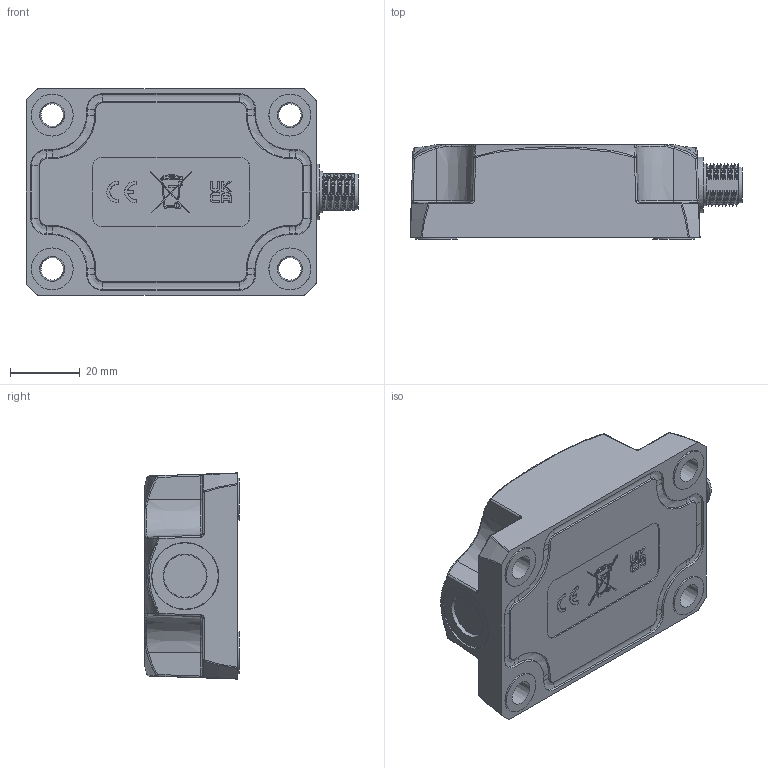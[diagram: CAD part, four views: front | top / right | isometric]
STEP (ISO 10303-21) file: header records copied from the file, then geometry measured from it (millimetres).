
FILE_DESCRIPTION (( 'STEP AP214' ), '1' );
FILE_NAME ('ACS3-K3-PQ-POSITAL.STEP', '2022-07-05T16:15:28', ( '' ), ( '' ), 'SwSTEP 2.0', 'SolidWorks 2022', '' );
FILE_SCHEMA (( 'AUTOMOTIVE_DESIGN' ));
Length unit declared in the file: millimetre
Products named in the file (1): ACS3-K3-PQ-POSITAL
Bounding box: 95 x 27 x 59 mm (x, y, z)
Volume: 104600.5 mm3; surface area: 18502.1 mm2
Topology: 1 solids, 1 shells, 792 faces, 2068 edges, 1327 vertices
Faces by surface type: plane 393, bspline 246, cylinder 65, cone 54, sphere 26, torus 8
Full cylindrical faces by diameter (mm): 1 x8, 8.4 x1, 10.35 x1, 12 x1, 16 x1, 19 x1
Entity records: 46812 total; most frequent: CARTESIAN_POINT 24673, ORIENTED_EDGE 3966, DIRECTION 2727, EDGE_CURVE 1983, VERTEX_POINT 1294, VECTOR 1149, LINE 1149, EDGE_LOOP 901
